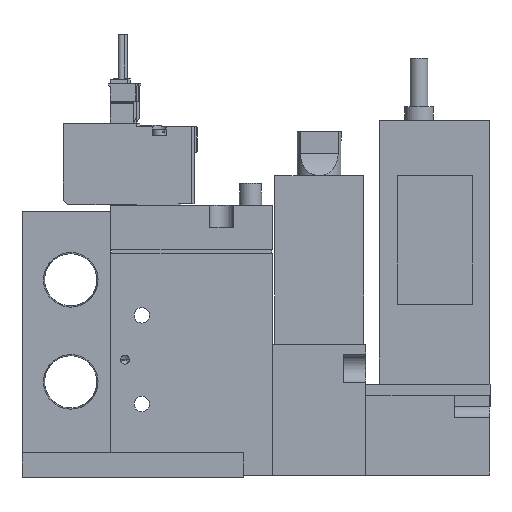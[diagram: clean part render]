
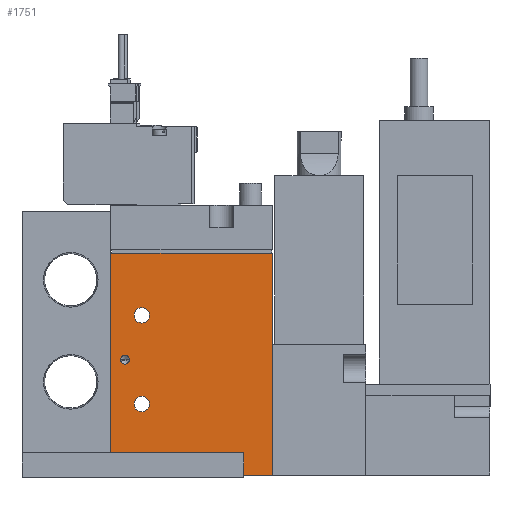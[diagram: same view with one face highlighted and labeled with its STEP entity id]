
A CAD part, left-side view. The second image highlights one B-rep face of the part: STEP entity #1751.
In plain terms, the highlighted planar face has unit normal (-1, 0, 0) as drawn and (1, 0, 0) by its records, which use the part's own axes.
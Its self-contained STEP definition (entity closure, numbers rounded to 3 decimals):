
#1751=ADVANCED_FACE('',(#2720,#2721,#2722,#2723),#2724,.F.);
#2720=FACE_BOUND('',#4662,.T.);
#2721=FACE_BOUND('',#4663,.T.);
#2722=FACE_BOUND('',#4664,.T.);
#2723=FACE_OUTER_BOUND('',#4665,.T.);
#2724=PLANE('',#4666);
#4662=EDGE_LOOP('',(#7022));
#4663=EDGE_LOOP('',(#7023));
#4664=EDGE_LOOP('',(#7024));
#4665=EDGE_LOOP('',(#7025,#7026,#7027,#7028));
#4666=AXIS2_PLACEMENT_3D('',#7029,#7030,#7031);
#7022=ORIENTED_EDGE('',*,*,#13047,.F.);
#7023=ORIENTED_EDGE('',*,*,#13049,.T.);
#7024=ORIENTED_EDGE('',*,*,#13050,.T.);
#7025=ORIENTED_EDGE('',*,*,#13040,.T.);
#7026=ORIENTED_EDGE('',*,*,#13037,.F.);
#7027=ORIENTED_EDGE('',*,*,#13041,.F.);
#7028=ORIENTED_EDGE('',*,*,#13033,.T.);
#7029=CARTESIAN_POINT('',(8.5,-19.444,50.0));
#7030=DIRECTION('',(-1.0,0.0,0.0));
#7031=DIRECTION('',(0.0,0.0,1.0));
#13033=EDGE_CURVE('',#15152,#15150,#15153,.T.);
#13037=EDGE_CURVE('',#15157,#15155,#15159,.T.);
#13040=EDGE_CURVE('',#15150,#15155,#15164,.T.);
#13041=EDGE_CURVE('',#15152,#15157,#15165,.T.);
#13047=EDGE_CURVE('',#15174,#15174,#15175,.T.);
#13049=EDGE_CURVE('',#15176,#15176,#15177,.T.);
#13050=EDGE_CURVE('',#15178,#15178,#15179,.T.);
#15150=VERTEX_POINT('',#18704);
#15152=VERTEX_POINT('',#18707);
#15153=LINE('',#18708,#18709);
#15155=VERTEX_POINT('',#18712);
#15157=VERTEX_POINT('',#18715);
#15159=LINE('',#18718,#18719);
#15164=LINE('',#18724,#18725);
#15165=LINE('',#18726,#18727);
#15174=VERTEX_POINT('',#18736);
#15175=CIRCLE('',#18737,1.0);
#15176=VERTEX_POINT('',#18738);
#15177=CIRCLE('',#18739,1.75);
#15178=VERTEX_POINT('',#18740);
#15179=CIRCLE('',#18741,1.75);
#18704=CARTESIAN_POINT('',(8.5,-19.444,0.0));
#18707=CARTESIAN_POINT('',(8.5,-19.444,50.0));
#18708=CARTESIAN_POINT('',(8.5,-19.444,50.0));
#18709=VECTOR('',#23566,1.0);
#18712=CARTESIAN_POINT('',(8.5,17.056,0.0));
#18715=CARTESIAN_POINT('',(8.5,17.056,50.0));
#18718=CARTESIAN_POINT('',(8.5,17.056,50.0));
#18719=VECTOR('',#23570,1.0);
#18724=CARTESIAN_POINT('',(8.5,-19.444,0.0));
#18725=VECTOR('',#23577,1.0);
#18726=CARTESIAN_POINT('',(8.5,-19.444,50.0));
#18727=VECTOR('',#23578,1.0);
#18736=CARTESIAN_POINT('',(8.5,-17.244,26.0));
#18737=AXIS2_PLACEMENT_3D('',#23591,#23592,#23593);
#18738=CARTESIAN_POINT('',(8.5,-10.694,36.0));
#18739=AXIS2_PLACEMENT_3D('',#23594,#23595,#23596);
#18740=CARTESIAN_POINT('',(8.5,-10.694,16.0));
#18741=AXIS2_PLACEMENT_3D('',#23597,#23598,#23599);
#23566=DIRECTION('',(0.0,0.0,-1.0));
#23570=DIRECTION('',(0.0,0.0,-1.0));
#23577=DIRECTION('',(0.0,1.0,0.0));
#23578=DIRECTION('',(0.0,1.0,0.0));
#23591=CARTESIAN_POINT('',(8.5,-16.244,26.0));
#23592=DIRECTION('',(1.0,0.,0.0));
#23593=DIRECTION('',(0.,-1.0,0.0));
#23594=CARTESIAN_POINT('',(8.5,-12.444,36.0));
#23595=DIRECTION('',(-1.0,0.0,0.0));
#23596=DIRECTION('',(0.0,1.0,0.0));
#23597=CARTESIAN_POINT('',(8.5,-12.444,16.0));
#23598=DIRECTION('',(-1.0,0.0,0.0));
#23599=DIRECTION('',(0.0,1.0,0.0));
